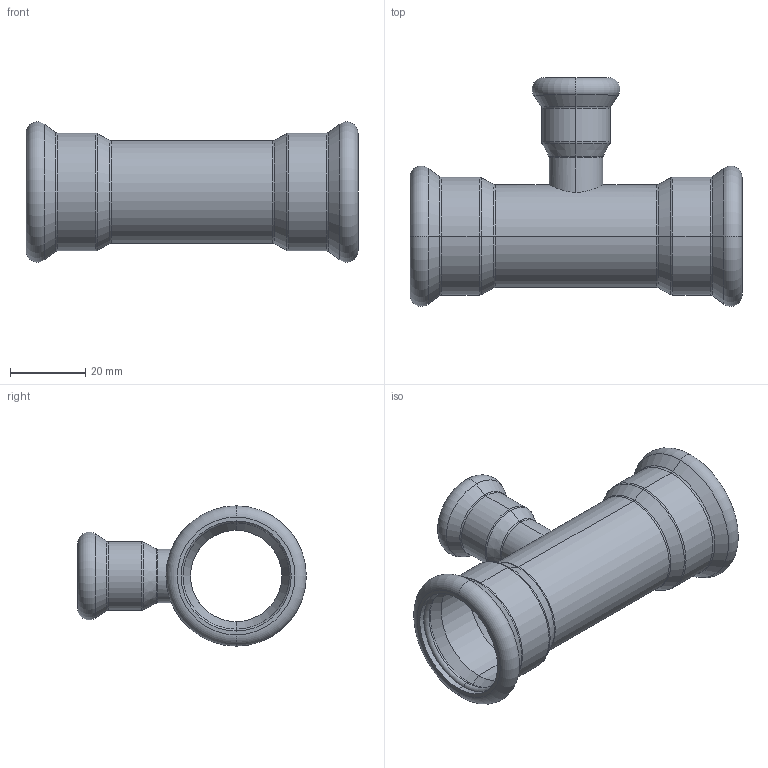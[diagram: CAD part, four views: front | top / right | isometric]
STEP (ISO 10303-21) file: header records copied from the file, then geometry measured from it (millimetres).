
FILE_DESCRIPTION (( 'STEP AP214' ), '1' );
FILE_NAME ('T28150R.STEP', '2025-08-18T00:44:34', ( '' ), ( '' ), 'SwSTEP 2.0', 'SolidWorks 2020', '' );
FILE_SCHEMA (( 'AUTOMOTIVE_DESIGN' ));
Length unit declared in the file: millimetre
Products named in the file (1): T28150R
Bounding box: 88 x 60.6 x 37.2 mm (x, y, z)
Volume: 15624.3 mm3; surface area: 21729.5 mm2
Topology: 4 solids, 4 shells, 98 faces, 198 edges, 106 vertices
Faces by surface type: torus 42, cylinder 26, cone 24, plane 6
Entity records: 3860 total; most frequent: CARTESIAN_POINT 570, DIRECTION 536, ORIENTED_EDGE 396, AXIS2_PLACEMENT_3D 243, EDGE_CURVE 198, CIRCLE 144, EDGE_LOOP 106, VERTEX_POINT 106
